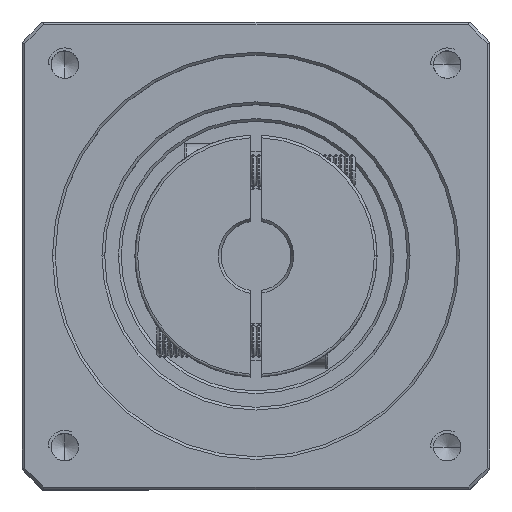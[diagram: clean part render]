
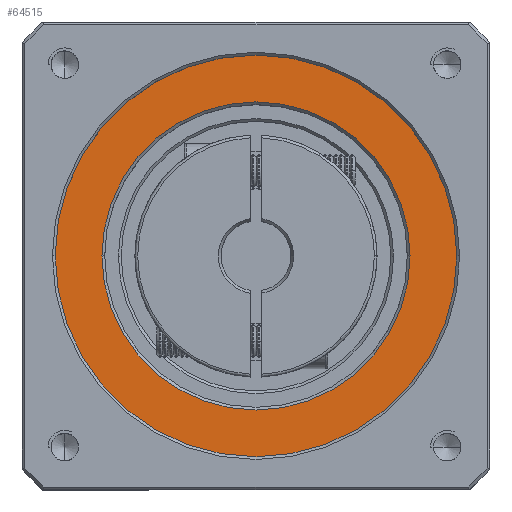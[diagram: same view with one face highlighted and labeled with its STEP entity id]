
A CAD part, top view. The second image highlights one B-rep face of the part: STEP entity #64515.
In plain terms, the highlighted planar face has unit normal (0, 0, 1).
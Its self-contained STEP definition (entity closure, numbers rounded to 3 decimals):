
#4304 = CARTESIAN_POINT ( 'NONE',  ( 42.992, 11.253, 99.75 ) ) ;
#5695 = VERTEX_POINT ( 'NONE', #76435 ) ;
#10644 = VERTEX_POINT ( 'NONE', #64908 ) ;
#10740 = ORIENTED_EDGE ( 'NONE', *, *, #49364, .T. ) ;
#14287 = DIRECTION ( 'NONE',  ( 1., 0., 0. ) ) ;
#27735 = EDGE_CURVE ( 'NONE', #10644, #5695, #57969, .T. ) ;
#32204 = ORIENTED_EDGE ( 'NONE', *, *, #27735, .T. ) ;
#32488 = DIRECTION ( 'NONE',  ( 0., 0., 1. ) ) ;
#33747 = CARTESIAN_POINT ( 'NONE',  ( 6.492, 11.253, 99.75 ) ) ;
#40333 = CARTESIAN_POINT ( 'NONE',  ( 42.992, 11.253, 99.75 ) ) ;
#49364 = EDGE_CURVE ( 'NONE', #118250, #69431, #81426, .T. ) ;
#50292 = DIRECTION ( 'NONE',  ( 1., 0., 0. ) ) ;
#52413 = CARTESIAN_POINT ( 'NONE',  ( 42.992, 11.253, 99.75 ) ) ;
#53229 = CIRCLE ( 'NONE', #66854, 28. ) ;
#57093 = DIRECTION ( 'NONE',  ( 0., 0., -1. ) ) ;
#57969 = CIRCLE ( 'NONE', #114587, 28. ) ;
#59650 = AXIS2_PLACEMENT_3D ( 'NONE', #4304, #73431, #14287 ) ;
#60249 = AXIS2_PLACEMENT_3D ( 'NONE', #91436, #32488, #101303 ) ;
#62374 = DIRECTION ( 'NONE',  ( 1., 0., 0. ) ) ;
#64515 = ADVANCED_FACE ( 'NONE', ( #111574, #85513 ), #82831, .T. ) ;
#64908 = CARTESIAN_POINT ( 'NONE',  ( 14.992, 11.253, 99.75 ) ) ;
#66854 = AXIS2_PLACEMENT_3D ( 'NONE', #52413, #120938, #62374 ) ;
#69431 = VERTEX_POINT ( 'NONE', #33747 ) ;
#71958 = ORIENTED_EDGE ( 'NONE', *, *, #92965, .T. ) ;
#73431 = DIRECTION ( 'NONE',  ( 0., 0., 1. ) ) ;
#76435 = CARTESIAN_POINT ( 'NONE',  ( 70.992, 11.253, 99.75 ) ) ;
#79364 = CIRCLE ( 'NONE', #60249, 36.5 ) ;
#81426 = CIRCLE ( 'NONE', #112504, 36.5 ) ;
#82831 = PLANE ( 'NONE',  #59650 ) ;
#85513 = FACE_BOUND ( 'NONE', #109948, .T. ) ;
#91436 = CARTESIAN_POINT ( 'NONE',  ( 42.992, 11.253, 99.75 ) ) ;
#92965 = EDGE_CURVE ( 'NONE', #69431, #118250, #79364, .T. ) ;
#92975 = EDGE_CURVE ( 'NONE', #5695, #10644, #53229, .T. ) ;
#98267 = CARTESIAN_POINT ( 'NONE',  ( 79.492, 11.253, 99.75 ) ) ;
#101303 = DIRECTION ( 'NONE',  ( 1., 0., 0. ) ) ;
#109050 = DIRECTION ( 'NONE',  ( 0., 0., 1. ) ) ;
#109948 = EDGE_LOOP ( 'NONE', ( #121873, #32204 ) ) ;
#111574 = FACE_OUTER_BOUND ( 'NONE', #123004, .T. ) ;
#112504 = AXIS2_PLACEMENT_3D ( 'NONE', #40333, #109050, #50292 ) ;
#114587 = AXIS2_PLACEMENT_3D ( 'NONE', #115684, #57093, #125538 ) ;
#115684 = CARTESIAN_POINT ( 'NONE',  ( 42.992, 11.253, 99.75 ) ) ;
#118250 = VERTEX_POINT ( 'NONE', #98267 ) ;
#120938 = DIRECTION ( 'NONE',  ( 0., 0., -1. ) ) ;
#121873 = ORIENTED_EDGE ( 'NONE', *, *, #92975, .T. ) ;
#123004 = EDGE_LOOP ( 'NONE', ( #10740, #71958 ) ) ;
#125538 = DIRECTION ( 'NONE',  ( 1., 0., 0. ) ) ;
